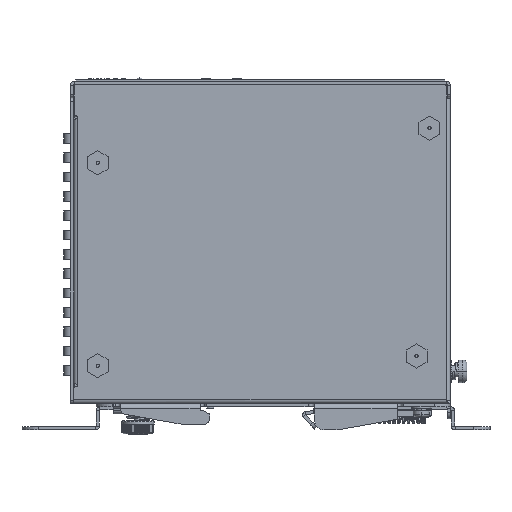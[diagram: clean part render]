
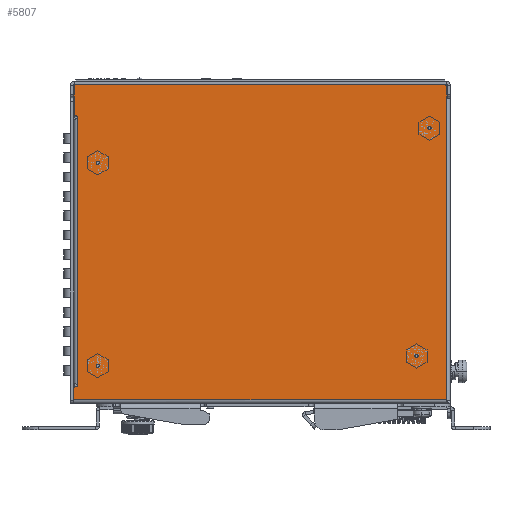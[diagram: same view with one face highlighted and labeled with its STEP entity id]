
A CAD part, left-side view. The second image highlights one B-rep face of the part: STEP entity #5807.
In plain terms, the highlighted planar face has unit normal (-1, 0, 0).
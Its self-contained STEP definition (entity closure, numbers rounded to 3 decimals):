
#108=CARTESIAN_POINT('',(-1.,50.5,-87.25));
#109=DIRECTION('',(-1.,0.,0.));
#110=DIRECTION('',(0.,1.,0.));
#111=AXIS2_PLACEMENT_3D('',#108,#109,#110);
#113=CARTESIAN_POINT('',(-1.,50.5,-87.25));
#114=DIRECTION('',(-1.,0.,0.));
#115=DIRECTION('',(0.,-1.,0.));
#116=AXIS2_PLACEMENT_3D('',#113,#114,#115);
#118=CARTESIAN_POINT('',(-1.,-48.5,-84.25));
#119=DIRECTION('',(-1.,0.,0.));
#120=DIRECTION('',(0.,1.,0.));
#121=AXIS2_PLACEMENT_3D('',#118,#119,#120);
#123=CARTESIAN_POINT('',(-1.,-48.5,-84.25));
#124=DIRECTION('',(-1.,0.,0.));
#125=DIRECTION('',(0.,-1.,0.));
#126=AXIS2_PLACEMENT_3D('',#123,#124,#125);
#128=CARTESIAN_POINT('',(-1.,50.5,-24.25));
#129=DIRECTION('',(-1.,0.,0.));
#130=DIRECTION('',(0.,1.,0.));
#131=AXIS2_PLACEMENT_3D('',#128,#129,#130);
#133=CARTESIAN_POINT('',(-1.,50.5,-24.25));
#134=DIRECTION('',(-1.,0.,0.));
#135=DIRECTION('',(0.,-1.,0.));
#136=AXIS2_PLACEMENT_3D('',#133,#134,#135);
#138=CARTESIAN_POINT('',(-1.,-52.5,-13.5));
#139=DIRECTION('',(-1.,0.,0.));
#140=DIRECTION('',(0.,1.,0.));
#141=AXIS2_PLACEMENT_3D('',#138,#139,#140);
#143=CARTESIAN_POINT('',(-1.,-52.5,-13.5));
#144=DIRECTION('',(-1.,0.,0.));
#145=DIRECTION('',(0.,-1.,0.));
#146=AXIS2_PLACEMENT_3D('',#143,#144,#145);
#148=CARTESIAN_POINT('',(-1.,57.3,-9.2));
#149=DIRECTION('',(-1.,0.,0.));
#150=DIRECTION('',(0.,1.,0.));
#151=AXIS2_PLACEMENT_3D('',#148,#149,#150);
#153=DIRECTION('',(0.,0.,1.));
#154=VECTOR('',#153,5.);
#155=CARTESIAN_POINT('',(-1.,57.8,-9.2));
#156=LINE('',#155,#154);
#157=DIRECTION('',(0.,0.,1.));
#158=VECTOR('',#157,3.7);
#159=CARTESIAN_POINT('',(-1.,57.8,-4.2));
#160=LINE('',#159,#158);
#161=CARTESIAN_POINT('',(-1.,57.3,-0.5));
#162=DIRECTION('',(-1.,0.,0.));
#163=DIRECTION('',(0.,0.,1.));
#164=AXIS2_PLACEMENT_3D('',#161,#162,#163);
#166=DIRECTION('',(0.,-1.,0.));
#167=VECTOR('',#166,114.6);
#168=CARTESIAN_POINT('',(-1.,57.3,0.));
#169=LINE('',#168,#167);
#170=CARTESIAN_POINT('',(-1.,-57.3,-0.5));
#171=DIRECTION('',(-1.,0.,0.));
#172=DIRECTION('',(0.,-1.,0.));
#173=AXIS2_PLACEMENT_3D('',#170,#171,#172);
#175=DIRECTION('',(0.,0.,-1.));
#176=VECTOR('',#175,3.7);
#177=CARTESIAN_POINT('',(-1.,-57.8,-0.5));
#178=LINE('',#177,#176);
#179=CARTESIAN_POINT('',(-1.,57.5,-94.3));
#180=DIRECTION('',(-1.,0.,0.));
#181=DIRECTION('',(0.,0.,1.));
#182=AXIS2_PLACEMENT_3D('',#179,#180,#181);
#184=DIRECTION('',(0.,-1.,0.));
#185=VECTOR('',#184,0.2);
#186=CARTESIAN_POINT('',(-1.,57.5,-93.8));
#187=LINE('',#186,#185);
#188=CARTESIAN_POINT('',(-1.,57.3,-93.3));
#189=DIRECTION('',(-1.,0.,0.));
#190=DIRECTION('',(0.,0.,-1.));
#191=AXIS2_PLACEMENT_3D('',#188,#189,#190);
#193=DIRECTION('',(0.,0.,-1.));
#194=VECTOR('',#193,0.5);
#195=CARTESIAN_POINT('',(-1.,56.8,-92.8));
#196=LINE('',#195,#194);
#197=DIRECTION('',(0.,0.,-1.));
#198=VECTOR('',#197,0.5);
#199=CARTESIAN_POINT('',(-1.,56.8,-10.2));
#200=LINE('',#199,#198);
#201=CARTESIAN_POINT('',(-1.,57.3,-10.2));
#202=DIRECTION('',(1.,0.,0.));
#203=DIRECTION('',(0.,0.,1.));
#204=AXIS2_PLACEMENT_3D('',#201,#202,#203);
#271=DIRECTION('',(0.,0.,-1.));
#272=VECTOR('',#271,93.6);
#273=CARTESIAN_POINT('',(-1.,-57.8,-4.2));
#274=LINE('',#273,#272);
#3340=DIRECTION('',(0.,1.,0.));
#3341=VECTOR('',#3340,115.8);
#3342=CARTESIAN_POINT('',(-1.,-57.8,-97.8));
#3343=LINE('',#3342,#3341);
#3356=DIRECTION('',(0.,0.,-1.));
#3357=VECTOR('',#3356,3.5);
#3358=CARTESIAN_POINT('',(-1.,58.,-94.3));
#3359=LINE('',#3358,#3357);
#3674=DIRECTION('',(0.,0.,1.));
#3675=VECTOR('',#3674,82.1);
#3676=CARTESIAN_POINT('',(-1.,56.8,-92.8));
#3677=LINE('',#3676,#3675);
#4410=CARTESIAN_POINT('',(-1.,58.,-97.8));
#4412=VERTEX_POINT('',#4410);
#4413=CARTESIAN_POINT('',(-1.,-57.8,-97.8));
#4414=VERTEX_POINT('',#4413);
#4427=CARTESIAN_POINT('',(-1.,-57.8,-4.2));
#4428=VERTEX_POINT('',#4427);
#4457=CARTESIAN_POINT('',(-1.,57.3,0.));
#4459=VERTEX_POINT('',#4457);
#4465=CARTESIAN_POINT('',(-1.,-57.8,-0.5));
#4466=VERTEX_POINT('',#4465);
#4467=CARTESIAN_POINT('',(-1.,-57.3,0.));
#4468=VERTEX_POINT('',#4467);
#5505=CARTESIAN_POINT('',(-1.,-52.,-13.5));
#5506=CARTESIAN_POINT('',(-1.,-53.,-13.5));
#5507=VERTEX_POINT('',#5505);
#5508=VERTEX_POINT('',#5506);
#5509=CARTESIAN_POINT('',(-1.,51.,-24.25));
#5510=CARTESIAN_POINT('',(-1.,50.,-24.25));
#5511=VERTEX_POINT('',#5509);
#5512=VERTEX_POINT('',#5510);
#5513=CARTESIAN_POINT('',(-1.,-48.,-84.25));
#5514=CARTESIAN_POINT('',(-1.,-49.,-84.25));
#5515=VERTEX_POINT('',#5513);
#5516=VERTEX_POINT('',#5514);
#5517=CARTESIAN_POINT('',(-1.,51.,-87.25));
#5518=CARTESIAN_POINT('',(-1.,50.,-87.25));
#5519=VERTEX_POINT('',#5517);
#5520=VERTEX_POINT('',#5518);
#5521=CARTESIAN_POINT('',(-1.,56.8,-10.2));
#5523=VERTEX_POINT('',#5521);
#5527=CARTESIAN_POINT('',(-1.,56.8,-10.7));
#5528=VERTEX_POINT('',#5527);
#5532=CARTESIAN_POINT('',(-1.,57.3,-93.8));
#5534=VERTEX_POINT('',#5532);
#5535=CARTESIAN_POINT('',(-1.,56.8,-92.8));
#5536=VERTEX_POINT('',#5535);
#5541=CARTESIAN_POINT('',(-1.,56.8,-93.3));
#5542=VERTEX_POINT('',#5541);
#5549=CARTESIAN_POINT('',(-1.,57.8,-4.2));
#5550=CARTESIAN_POINT('',(-1.,57.8,-0.5));
#5551=VERTEX_POINT('',#5549);
#5552=VERTEX_POINT('',#5550);
#5557=CARTESIAN_POINT('',(-1.,57.8,-9.2));
#5558=VERTEX_POINT('',#5557);
#5559=CARTESIAN_POINT('',(-1.,57.3,-9.7));
#5560=VERTEX_POINT('',#5559);
#5565=CARTESIAN_POINT('',(-1.,57.5,-93.8));
#5566=VERTEX_POINT('',#5565);
#5567=CARTESIAN_POINT('',(-1.,58.,-94.3));
#5568=VERTEX_POINT('',#5567);
#5744=CARTESIAN_POINT('',(-1.,0.,0.));
#5745=DIRECTION('',(1.,0.,0.));
#5746=DIRECTION('',(0.,-1.,0.));
#5747=AXIS2_PLACEMENT_3D('',#5744,#5745,#5746);
#5748=PLANE('',#5747);
#5750=ORIENTED_EDGE('',*,*,#5749,.F.);
#5752=ORIENTED_EDGE('',*,*,#5751,.T.);
#5754=ORIENTED_EDGE('',*,*,#5753,.T.);
#5756=ORIENTED_EDGE('',*,*,#5755,.F.);
#5758=ORIENTED_EDGE('',*,*,#5757,.T.);
#5760=ORIENTED_EDGE('',*,*,#5759,.F.);
#5762=ORIENTED_EDGE('',*,*,#5761,.T.);
#5764=ORIENTED_EDGE('',*,*,#5763,.T.);
#5766=ORIENTED_EDGE('',*,*,#5765,.T.);
#5768=ORIENTED_EDGE('',*,*,#5767,.F.);
#5770=ORIENTED_EDGE('',*,*,#5769,.F.);
#5772=ORIENTED_EDGE('',*,*,#5771,.T.);
#5774=ORIENTED_EDGE('',*,*,#5773,.T.);
#5776=ORIENTED_EDGE('',*,*,#5775,.F.);
#5778=ORIENTED_EDGE('',*,*,#5777,.T.);
#5780=ORIENTED_EDGE('',*,*,#5779,.F.);
#5782=ORIENTED_EDGE('',*,*,#5781,.F.);
#5783=EDGE_LOOP('',(#5750,#5752,#5754,#5756,#5758,#5760,#5762,#5764,#5766,#5768,
#5770,#5772,#5774,#5776,#5778,#5780,#5782));
#5784=FACE_OUTER_BOUND('',#5783,.F.);
#5786=ORIENTED_EDGE('',*,*,#5785,.T.);
#5788=ORIENTED_EDGE('',*,*,#5787,.T.);
#5789=EDGE_LOOP('',(#5786,#5788));
#5790=FACE_BOUND('',#5789,.F.);
#5792=ORIENTED_EDGE('',*,*,#5791,.T.);
#5794=ORIENTED_EDGE('',*,*,#5793,.T.);
#5795=EDGE_LOOP('',(#5792,#5794));
#5796=FACE_BOUND('',#5795,.F.);
#5797=ORIENTED_EDGE('',*,*,#5724,.T.);
#5798=ORIENTED_EDGE('',*,*,#5738,.T.);
#5799=EDGE_LOOP('',(#5797,#5798));
#5800=FACE_BOUND('',#5799,.F.);
#5802=ORIENTED_EDGE('',*,*,#5801,.T.);
#5804=ORIENTED_EDGE('',*,*,#5803,.T.);
#5805=EDGE_LOOP('',(#5802,#5804));
#5806=FACE_BOUND('',#5805,.F.);
#112=CIRCLE('',#111,0.5);
#117=CIRCLE('',#116,0.5);
#122=CIRCLE('',#121,0.5);
#127=CIRCLE('',#126,0.5);
#132=CIRCLE('',#131,0.5);
#137=CIRCLE('',#136,0.5);
#142=CIRCLE('',#141,0.5);
#147=CIRCLE('',#146,0.5);
#152=CIRCLE('',#151,0.5);
#165=CIRCLE('',#164,0.5);
#174=CIRCLE('',#173,0.5);
#183=CIRCLE('',#182,0.5);
#192=CIRCLE('',#191,0.5);
#205=CIRCLE('',#204,0.5);
#5724=EDGE_CURVE('',#5507,#5508,#142,.T.);
#5738=EDGE_CURVE('',#5508,#5507,#147,.T.);
#5749=EDGE_CURVE('',#5558,#5560,#152,.T.);
#5751=EDGE_CURVE('',#5558,#5551,#156,.T.);
#5753=EDGE_CURVE('',#5551,#5552,#160,.T.);
#5755=EDGE_CURVE('',#4459,#5552,#165,.T.);
#5757=EDGE_CURVE('',#4459,#4468,#169,.T.);
#5759=EDGE_CURVE('',#4466,#4468,#174,.T.);
#5761=EDGE_CURVE('',#4466,#4428,#178,.T.);
#5763=EDGE_CURVE('',#4428,#4414,#274,.T.);
#5765=EDGE_CURVE('',#4414,#4412,#3343,.T.);
#5767=EDGE_CURVE('',#5568,#4412,#3359,.T.);
#5769=EDGE_CURVE('',#5566,#5568,#183,.T.);
#5771=EDGE_CURVE('',#5566,#5534,#187,.T.);
#5773=EDGE_CURVE('',#5534,#5542,#192,.T.);
#5775=EDGE_CURVE('',#5536,#5542,#196,.T.);
#5777=EDGE_CURVE('',#5536,#5528,#3677,.T.);
#5779=EDGE_CURVE('',#5523,#5528,#200,.T.);
#5781=EDGE_CURVE('',#5560,#5523,#205,.T.);
#5785=EDGE_CURVE('',#5515,#5516,#122,.T.);
#5787=EDGE_CURVE('',#5516,#5515,#127,.T.);
#5791=EDGE_CURVE('',#5511,#5512,#132,.T.);
#5793=EDGE_CURVE('',#5512,#5511,#137,.T.);
#5801=EDGE_CURVE('',#5519,#5520,#112,.T.);
#5803=EDGE_CURVE('',#5520,#5519,#117,.T.);
#5807=ADVANCED_FACE('',(#5784,#5790,#5796,#5800,#5806),#5748,.F.);
